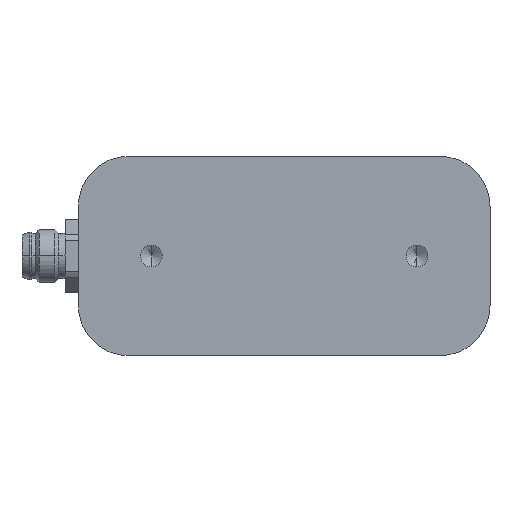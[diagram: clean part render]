
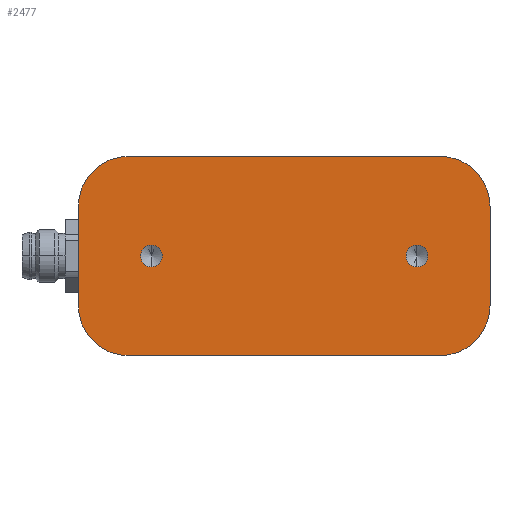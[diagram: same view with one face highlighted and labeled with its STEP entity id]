
A CAD part, front view. The second image highlights one B-rep face of the part: STEP entity #2477.
In plain terms, the highlighted planar face has unit normal (0, -1, 0).
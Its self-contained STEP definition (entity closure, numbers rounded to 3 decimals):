
#55 = CARTESIAN_POINT ( 'NONE',  ( 1.5, -13., -1.5 ) ) ;
#460 = DIRECTION ( 'NONE',  ( 0., 0., -1. ) ) ;
#739 = DIRECTION ( 'NONE',  ( 0., -1., 0. ) ) ;
#757 = CIRCLE ( 'NONE', #4567, 1.65 ) ;
#903 = CIRCLE ( 'NONE', #11627, 7.5 ) ;
#913 = LINE ( 'NONE', #9688, #4270 ) ;
#1123 = ORIENTED_EDGE ( 'NONE', *, *, #1756, .F. ) ;
#1206 = CARTESIAN_POINT ( 'NONE',  ( -6., -13., -24. ) ) ;
#1356 = ORIENTED_EDGE ( 'NONE', *, *, #3328, .T. ) ;
#1616 = CARTESIAN_POINT ( 'NONE',  ( 1.5, -13., 6. ) ) ;
#1716 = DIRECTION ( 'NONE',  ( 0., 0., 1. ) ) ;
#1756 = EDGE_CURVE ( 'NONE', #11486, #10312, #7224, .T. ) ;
#1863 = CARTESIAN_POINT ( 'NONE',  ( 45., -13., -7.35 ) ) ;
#2045 = DIRECTION ( 'NONE',  ( 0., 0., -1. ) ) ;
#2310 = AXIS2_PLACEMENT_3D ( 'NONE', #9353, #739, #10813 ) ;
#2477 = ADVANCED_FACE ( 'NONE', ( #10847, #16925, #6075 ), #6044, .T. ) ;
#2654 = ORIENTED_EDGE ( 'NONE', *, *, #12908, .T. ) ;
#3161 = DIRECTION ( 'NONE',  ( 0., 0., -1. ) ) ;
#3328 = EDGE_CURVE ( 'NONE', #11135, #4513, #9915, .T. ) ;
#3514 = VERTEX_POINT ( 'NONE', #5533 ) ;
#3833 = DIRECTION ( 'NONE',  ( 0., 0., -1. ) ) ;
#3882 = AXIS2_PLACEMENT_3D ( 'NONE', #17682, #9039, #3161 ) ;
#4036 = CIRCLE ( 'NONE', #3882, 1.65 ) ;
#4270 = VECTOR ( 'NONE', #13996, 1000. ) ;
#4513 = VERTEX_POINT ( 'NONE', #15786 ) ;
#4567 = AXIS2_PLACEMENT_3D ( 'NONE', #7273, #17764, #460 ) ;
#4635 = EDGE_CURVE ( 'NONE', #13207, #13498, #8716, .T. ) ;
#5154 = CIRCLE ( 'NONE', #12513, 1.65 ) ;
#5533 = CARTESIAN_POINT ( 'NONE',  ( 45., -13., -10.65 ) ) ;
#5726 = ORIENTED_EDGE ( 'NONE', *, *, #9547, .F. ) ;
#5918 = DIRECTION ( 'NONE',  ( 0., 0., -1. ) ) ;
#6044 = PLANE ( 'NONE',  #9664 ) ;
#6075 = FACE_OUTER_BOUND ( 'NONE', #15752, .T. ) ;
#6180 = ORIENTED_EDGE ( 'NONE', *, *, #15747, .F. ) ;
#6249 = AXIS2_PLACEMENT_3D ( 'NONE', #55, #11346, #10079 ) ;
#6544 = ORIENTED_EDGE ( 'NONE', *, *, #4635, .T. ) ;
#6572 = CARTESIAN_POINT ( 'NONE',  ( -6., -13., -24. ) ) ;
#6842 = EDGE_CURVE ( 'NONE', #12370, #3514, #757, .T. ) ;
#6937 = CARTESIAN_POINT ( 'NONE',  ( 48.5, -13., -24. ) ) ;
#7111 = CARTESIAN_POINT ( 'NONE',  ( 5., -13., -10.65 ) ) ;
#7224 = CIRCLE ( 'NONE', #11076, 1.65 ) ;
#7273 = CARTESIAN_POINT ( 'NONE',  ( 45., -13., -9. ) ) ;
#7770 = DIRECTION ( 'NONE',  ( 0., -1., 0. ) ) ;
#8492 = EDGE_CURVE ( 'NONE', #18631, #11262, #17812, .T. ) ;
#8636 = CARTESIAN_POINT ( 'NONE',  ( -6., -13., -1.5 ) ) ;
#8668 = EDGE_CURVE ( 'NONE', #12586, #13207, #16914, .T. ) ;
#8716 = CIRCLE ( 'NONE', #11026, 7.5 ) ;
#8791 = DIRECTION ( 'NONE',  ( 0., -1., 0. ) ) ;
#9006 = DIRECTION ( 'NONE',  ( 0., -1., 0. ) ) ;
#9039 = DIRECTION ( 'NONE',  ( 0., -1., 0. ) ) ;
#9353 = CARTESIAN_POINT ( 'NONE',  ( 1.5, -13., -16.5 ) ) ;
#9382 = ORIENTED_EDGE ( 'NONE', *, *, #8668, .T. ) ;
#9547 = EDGE_CURVE ( 'NONE', #11135, #11262, #16218, .T. ) ;
#9664 = AXIS2_PLACEMENT_3D ( 'NONE', #6572, #17405, #5918 ) ;
#9683 = EDGE_CURVE ( 'NONE', #13502, #12586, #903, .T. ) ;
#9688 = CARTESIAN_POINT ( 'NONE',  ( -6., -13., 6. ) ) ;
#9732 = EDGE_CURVE ( 'NONE', #3514, #12370, #4036, .T. ) ;
#9915 = CIRCLE ( 'NONE', #2310, 7.5 ) ;
#10079 = DIRECTION ( 'NONE',  ( 0., 0., -1. ) ) ;
#10312 = VERTEX_POINT ( 'NONE', #7111 ) ;
#10813 = DIRECTION ( 'NONE',  ( 0., 0., -1. ) ) ;
#10847 = FACE_BOUND ( 'NONE', #14039, .T. ) ;
#10879 = CARTESIAN_POINT ( 'NONE',  ( 56., -13., -1.5 ) ) ;
#11026 = AXIS2_PLACEMENT_3D ( 'NONE', #13479, #9006, #2045 ) ;
#11076 = AXIS2_PLACEMENT_3D ( 'NONE', #15315, #13875, #3833 ) ;
#11135 = VERTEX_POINT ( 'NONE', #17100 ) ;
#11148 = ORIENTED_EDGE ( 'NONE', *, *, #6842, .F. ) ;
#11262 = VERTEX_POINT ( 'NONE', #8636 ) ;
#11346 = DIRECTION ( 'NONE',  ( 0., -1., 0. ) ) ;
#11486 = VERTEX_POINT ( 'NONE', #15156 ) ;
#11627 = AXIS2_PLACEMENT_3D ( 'NONE', #16123, #8791, #14630 ) ;
#11936 = DIRECTION ( 'NONE',  ( 1., 0., 0. ) ) ;
#12370 = VERTEX_POINT ( 'NONE', #1863 ) ;
#12513 = AXIS2_PLACEMENT_3D ( 'NONE', #14926, #7770, #15057 ) ;
#12586 = VERTEX_POINT ( 'NONE', #13906 ) ;
#12908 = EDGE_CURVE ( 'NONE', #4513, #13502, #17451, .T. ) ;
#13123 = VECTOR ( 'NONE', #1716, 1000. ) ;
#13136 = CARTESIAN_POINT ( 'NONE',  ( 56., -13., -24. ) ) ;
#13207 = VERTEX_POINT ( 'NONE', #10879 ) ;
#13395 = CARTESIAN_POINT ( 'NONE',  ( -6., -13., -24. ) ) ;
#13479 = CARTESIAN_POINT ( 'NONE',  ( 48.5, -13., -1.5 ) ) ;
#13498 = VERTEX_POINT ( 'NONE', #17150 ) ;
#13502 = VERTEX_POINT ( 'NONE', #6937 ) ;
#13644 = VECTOR ( 'NONE', #11936, 1000. ) ;
#13875 = DIRECTION ( 'NONE',  ( 0., -1., 0. ) ) ;
#13906 = CARTESIAN_POINT ( 'NONE',  ( 56., -13., -16.5 ) ) ;
#13996 = DIRECTION ( 'NONE',  ( 1., 0., 0. ) ) ;
#14039 = EDGE_LOOP ( 'NONE', ( #17872, #11148 ) ) ;
#14630 = DIRECTION ( 'NONE',  ( 0., 0., -1. ) ) ;
#14742 = ORIENTED_EDGE ( 'NONE', *, *, #15475, .F. ) ;
#14926 = CARTESIAN_POINT ( 'NONE',  ( 5., -13., -9. ) ) ;
#15057 = DIRECTION ( 'NONE',  ( 0., 0., -1. ) ) ;
#15156 = CARTESIAN_POINT ( 'NONE',  ( 5., -13., -7.35 ) ) ;
#15315 = CARTESIAN_POINT ( 'NONE',  ( 5., -13., -9. ) ) ;
#15475 = EDGE_CURVE ( 'NONE', #10312, #11486, #5154, .T. ) ;
#15747 = EDGE_CURVE ( 'NONE', #18631, #13498, #913, .T. ) ;
#15752 = EDGE_LOOP ( 'NONE', ( #6180, #18274, #5726, #1356, #2654, #18588, #9382, #6544 ) ) ;
#15786 = CARTESIAN_POINT ( 'NONE',  ( 1.5, -13., -24. ) ) ;
#15817 = DIRECTION ( 'NONE',  ( 0., 0., 1. ) ) ;
#16123 = CARTESIAN_POINT ( 'NONE',  ( 48.5, -13., -16.5 ) ) ;
#16218 = LINE ( 'NONE', #1206, #16663 ) ;
#16663 = VECTOR ( 'NONE', #15817, 1000. ) ;
#16914 = LINE ( 'NONE', #13136, #13123 ) ;
#16925 = FACE_BOUND ( 'NONE', #17003, .T. ) ;
#17003 = EDGE_LOOP ( 'NONE', ( #14742, #1123 ) ) ;
#17100 = CARTESIAN_POINT ( 'NONE',  ( -6., -13., -16.5 ) ) ;
#17150 = CARTESIAN_POINT ( 'NONE',  ( 48.5, -13., 6. ) ) ;
#17405 = DIRECTION ( 'NONE',  ( 0., -1., 0. ) ) ;
#17451 = LINE ( 'NONE', #13395, #13644 ) ;
#17682 = CARTESIAN_POINT ( 'NONE',  ( 45., -13., -9. ) ) ;
#17764 = DIRECTION ( 'NONE',  ( 0., -1., 0. ) ) ;
#17812 = CIRCLE ( 'NONE', #6249, 7.5 ) ;
#17872 = ORIENTED_EDGE ( 'NONE', *, *, #9732, .F. ) ;
#18274 = ORIENTED_EDGE ( 'NONE', *, *, #8492, .T. ) ;
#18588 = ORIENTED_EDGE ( 'NONE', *, *, #9683, .T. ) ;
#18631 = VERTEX_POINT ( 'NONE', #1616 ) ;
